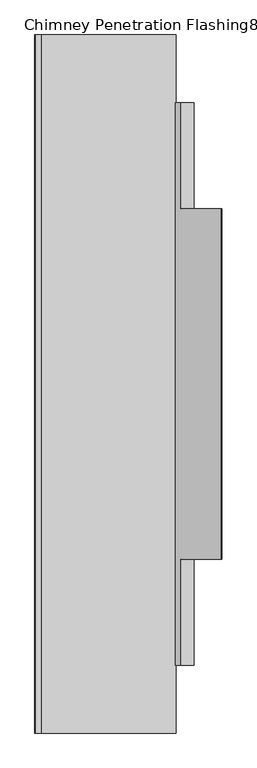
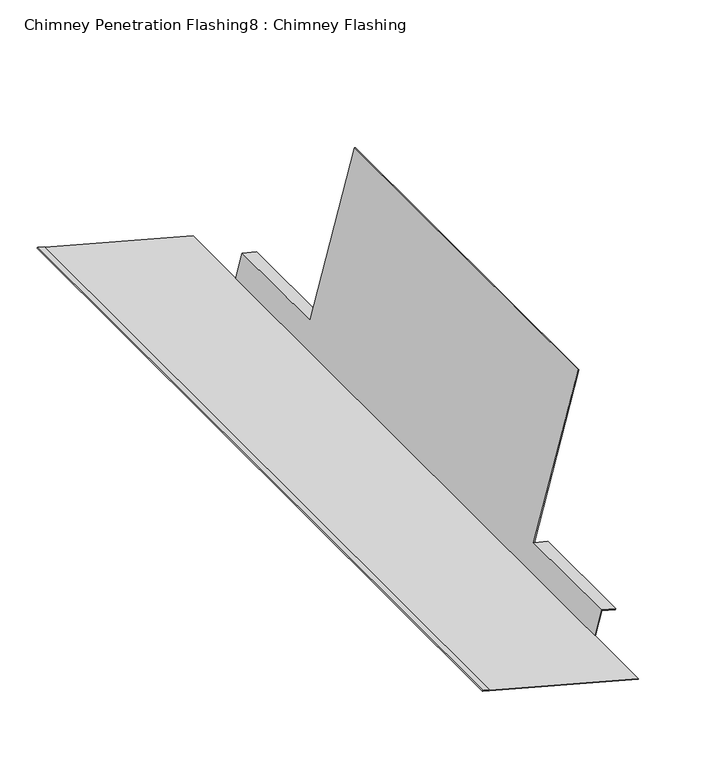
"""IFC4 building model written with IfcOpenShell, lengths in millimetres: proxy geometry, Chimney Penetration Flashing8 : Chimney Flashing."""

from ifc_helpers import new_model, si_unit, frame, origin, place, context, project, spatial, circle_curve, source, transform, mapped, element, save
from ifc_brep_helpers import plane_surface, cylinder_surface, advanced_brep


def chimney_penetration_flashing8_chimney_flashing_8440fa7c(model_context):
    return source(origin(), model_context, "Body", "AdvancedBrep", [
        advanced_brep(
        [(-6074.4421729, -35512.8838318, 7245.6112442), (-6074.1836072, -35512.8838318, 7246.5772379), (-6306.0386129, -35512.8838318, 7308.5722555), (-6305.7803007, -35512.8838318, 7309.5383169), (-6315.4409153, -35512.8838318, 7312.1214399), (-6315.9575399, -35512.8838318, 7310.1893169), (-6074.4421729, -34312.8838318, 7245.6112442), (-6315.9575399, -34312.8838318, 7310.1893169), (-6315.4409153, -34312.8838318, 7312.1214399), (-6305.7803007, -34312.8838318, 7309.5383169), (-6306.0386129, -34312.8838318, 7308.5722555), (-6074.1836072, -34312.8838318, 7246.5772379), (-6074.1836072, -34429.2203831, 7246.5772379), (-6064.0995454, -34429.2203831, 7284.2509927), (-6064.0995454, -34611.8838318, 7284.2509927), (-6063.8409798, -34611.8838318, 7285.2169864), (-5994.3716719, -34611.8838318, 7544.752255), (-5994.3716719, -35213.8838318, 7544.752255), (-6063.8409798, -35213.8838318, 7285.2169864), (-6064.0995454, -35213.8838318, 7284.2509927), (-6064.0995454, -35396.5472806, 7284.2509927), (-6074.1836072, -35396.5472806, 7246.5772379), (-6075.1496687, -35396.5472806, 7246.8355502), (-6075.1496687, -34429.2203831, 7246.8355502), (-5995.3376656, -35213.8838318, 7545.0108207), (-6064.8069056, -35213.8838318, 7285.4758055), (-5995.3376656, -34611.8838318, 7545.0108207), (-6064.8069056, -34611.8838318, 7285.4758055), (-6042.491813, -35213.8838318, 7279.4964945), (-6042.7503787, -35213.8838318, 7278.5305007), (-6042.491813, -35396.5472806, 7279.4964945), (-6042.7503787, -35396.5472806, 7278.5305007), (-6064.8069056, -34429.2203831, 7285.4758055), (-6064.8069056, -35396.5472806, 7285.4758055), (-6042.7503787, -34611.8838318, 7278.5305007), (-6042.491813, -34611.8838318, 7279.4964945), (-6042.491813, -34429.2203831, 7279.4964945), (-6042.7503787, -34429.2203831, 7278.5305007)],
        [
            (0, 1),
            (1, 2),
            (2, 3),
            (3, 4),
            (4, 5, circle_curve(frame((-6315.6992276, -35512.8838318, 7311.1553784), z_axis=(0.0, -1.0, 0.0), x_axis=(-0.49954561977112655, 0.0, -0.8662875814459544)), 1.0)),
            (5, 0),
            (6, 7),
            (7, 8, circle_curve(frame((-6315.6992276, -34312.8838318, 7311.1553784), z_axis=(0.0, 1.0, 0.0), x_axis=(-0.49954561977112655, 0.0, -0.8662875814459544)), 1.0)),
            (8, 9),
            (9, 10),
            (10, 11),
            (11, 6),
            (0, 6),
            (11, 12),
            (12, 13),
            (13, 14),
            (14, 15),
            (15, 16),
            (16, 17),
            (17, 18),
            (18, 19),
            (19, 20),
            (20, 21),
            (21, 1),
            (21, 22),
            (22, 23),
            (23, 12),
            (10, 2),
            (9, 3),
            (8, 4),
            (7, 5),
            (17, 24),
            (24, 25),
            (25, 18),
            (26, 16),
            (15, 27),
            (27, 26),
            (26, 24),
            (28, 29),
            (29, 19),
            (18, 28),
            (30, 31),
            (31, 29),
            (28, 30),
            (31, 20),
            (27, 32),
            (32, 23),
            (22, 33),
            (33, 25),
            (30, 33),
            (14, 34),
            (34, 35),
            (35, 15),
            (36, 37),
            (37, 13),
            (32, 36),
            (34, 37),
            (36, 35),
        ],
        [
            plane_surface(frame((-7781.0894126, -35512.8838318, 7636.9190019), z_axis=(0.0, -1.0, 0.0), x_axis=(-0.8662875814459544, 0.0, 0.49954561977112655))),
            plane_surface(frame((-7781.0894126, -34312.8838318, 7636.9190019), z_axis=(0.0, 1.0, 0.0), x_axis=(-0.8662875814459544, 0.0, 0.49954561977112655))),
            plane_surface(frame((-6074.4421729, -35512.8838318, 7245.6112442), z_axis=(0.9659936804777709, 0.0, -0.25856567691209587), x_axis=(0.0, 1.0, 0.0))),
            plane_surface(frame((-6074.1836072, -35512.8838318, 7246.5772379), z_axis=(0.2583122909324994, 0.0, 0.9660614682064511), x_axis=(0.0, 1.0, 0.0))),
            plane_surface(frame((-6306.0386129, -35512.8838318, 7308.5722555), z_axis=(0.9660614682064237, 0.0, -0.2583122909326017), x_axis=(0.0, 1.0, 0.0))),
            plane_surface(frame((-6305.7803007, -35512.8838318, 7309.5383169), z_axis=(0.2583122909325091, 0.0, 0.9660614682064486), x_axis=(0.0, 1.0, 0.0))),
            cylinder_surface(frame((-6315.6992276, -35512.8838318, 7311.1553784), z_axis=(0.0, -1.0, 0.0), x_axis=(-0.49954561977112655, 0.0, -0.8662875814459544)), 1.0),
            plane_surface(frame((-6315.9575399, -35512.8838318, 7310.1893169), z_axis=(-0.2583122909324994, 0.0, -0.9660614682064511), x_axis=(0.0, 1.0, 0.0))),
            plane_surface(frame((-7781.0894126, -35213.8838318, 7636.9190019), z_axis=(0.0, -1.0, 0.0), x_axis=(-0.8662875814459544, 0.0, 0.49954561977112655))),
            plane_surface(frame((-7781.0894126, -34611.8838318, 7636.9190019), z_axis=(0.0, 1.0, 0.0), x_axis=(-0.8662875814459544, 0.0, 0.49954561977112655))),
            plane_surface(frame((-5994.3716719, -35213.8838318, 7544.752255), z_axis=(0.2585656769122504, 0.0, 0.9659936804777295), x_axis=(0.0, 1.0, 0.0))),
            plane_surface(frame((-7781.0894126, -35213.8838318, 7636.9190019), z_axis=(0.0, 1.0, 0.0), x_axis=(-0.8662875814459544, 0.0, 0.49954561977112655))),
            plane_surface(frame((-6042.7503787, -35396.5472806, 7278.5305007), z_axis=(0.9659936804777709, 0.0, -0.25856567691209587), x_axis=(0.0, 1.0, 0.0))),
            plane_surface(frame((-6064.0995454, -35396.5472806, 7284.2509927), z_axis=(-0.2588190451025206, 0.0, -0.9659258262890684), x_axis=(0.0, 1.0, 0.0))),
            plane_surface(frame((-5995.3376656, -35213.8838318, 7545.0108207), z_axis=(-0.9659936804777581, 0.0, 0.25856567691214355), x_axis=(0.0, 1.0, 0.0))),
            plane_surface(frame((-7781.0894126, -35396.5472806, 7636.9190019), z_axis=(0.0, -1.0, 0.0), x_axis=(-0.8662875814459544, 0.0, 0.49954561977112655))),
            plane_surface(frame((-6042.491813, -35396.5472806, 7279.4964945), z_axis=(0.2588190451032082, 0.0, 0.9659258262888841), x_axis=(0.0, 1.0, 0.0))),
            plane_surface(frame((-7781.0894126, -34611.8838318, 7636.9190019), z_axis=(0.0, -1.0, 0.0), x_axis=(-0.8662875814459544, 0.0, 0.49954561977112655))),
            plane_surface(frame((-7781.0894126, -34429.2203831, 7636.9190019), z_axis=(0.0, 1.0, 0.0), x_axis=(-0.8662875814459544, 0.0, 0.49954561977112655))),
            plane_surface(frame((-6042.7503787, -34611.8838318, 7278.5305007), z_axis=(0.9659936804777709, 0.0, -0.25856567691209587), x_axis=(0.0, 1.0, 0.0))),
            plane_surface(frame((-6064.0995454, -34611.8838318, 7284.2509927), z_axis=(-0.2588190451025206, 0.0, -0.9659258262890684), x_axis=(0.0, 1.0, 0.0))),
            plane_surface(frame((-6042.491813, -34611.8838318, 7279.4964945), z_axis=(0.2588190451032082, 0.0, 0.9659258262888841), x_axis=(0.0, 1.0, 0.0))),
        ],
        [
            (0, [[1, 2, 3, 4, 5, 6]]),
            (1, [[7, 8, 9, 10, 11, 12]]),
            (2, [[-1, 13, -12, 14, 15, 16, 17, 18, 19, 20, 21, 22, 23, 24]]),
            (3, [[-2, -24, 25, 26, 27, -14, -11, 28]]),
            (4, [[-3, -28, -10, 29]]),
            (5, [[-4, -29, -9, 30]]),
            (6, [[-5, -30, -8, 31]]),
            (7, [[-6, -31, -7, -13]]),
            (8, [[32, 33, 34, -20]]),
            (9, [[35, -18, 36, 37]]),
            (10, [[-32, -19, -35, 38]]),
            (11, [[39, 40, -21, 41]]),
            (12, [[42, 43, -39, 44]]),
            (13, [[45, -22, -40, -43]]),
            (14, [[-38, -37, 46, 47, -26, 48, 49, -33]]),
            (15, [[50, -48, -25, -23, -45, -42]]),
            (16, [[-50, -44, -41, -34, -49]]),
            (17, [[51, 52, 53, -17]]),
            (18, [[54, 55, -15, -27, -47, 56]]),
            (19, [[-52, 57, -54, 58]]),
            (20, [[-51, -16, -55, -57]]),
            (21, [[-56, -46, -36, -53, -58]]),
        ],
    ),
    ])


if __name__ == "__main__":
    model = new_model("IFC4")
    model_context = context("Model", 3, world=origin())
    ifc_project = project(units=[si_unit("LENGTHUNIT", "METRE", prefix="MILLI")], contexts=[model_context])
    site = spatial("IfcSite", under=ifc_project)
    building = spatial("IfcBuilding", under=site)
    placement = place(None, origin())
    chimney_penetration_flashing8_chimney_flashing_shape = chimney_penetration_flashing8_chimney_flashing_8440fa7c(model_context)
    element("IfcBuildingElementProxy", 1, Name="Chimney Penetration Flashing8 : Chimney Flashing", ObjectType="Chimney Penetration Flashing8 : Chimney Flashing", at=placement, inside=building, context=model_context, shape_type="MappedRepresentation", body=[
        mapped(chimney_penetration_flashing8_chimney_flashing_shape, transform((0.0, 0.0, 0.0), x_axis=(1.0, 0.0, 0.0), y_axis=(0.0, 1.0, 0.0), z_axis=(0.0, 0.0, 1.0))),
    ])
    save(model, "model.ifc")
